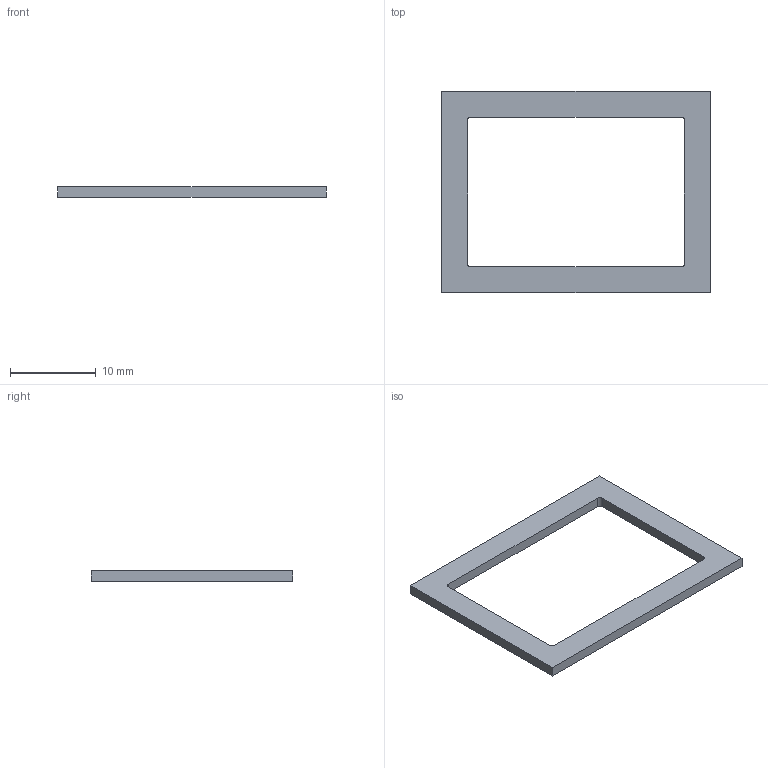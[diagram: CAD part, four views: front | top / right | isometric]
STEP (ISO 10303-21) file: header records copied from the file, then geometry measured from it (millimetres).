
FILE_DESCRIPTION(('Open CASCADE Model'),'2;1');
FILE_NAME('Open CASCADE Shape Model','2026-11-14T12:48:49',('Author'),( 'Open CASCADE'),'Open CASCADE STEP processor 7.9','Open CASCADE 7.9' ,'Unknown');
FILE_SCHEMA(('AUTOMOTIVE_DESIGN { 1 0 10303 214 1 1 1 1 }'));
Length unit declared in the file: millimetre
Products named in the file (1): Open CASCADE STEP translator 7.9 5
Bounding box: 31.34 x 23.5 x 1.2 mm (x, y, z)
Volume: 351.8 mm3; surface area: 820 mm2
Topology: 1 solids, 1 shells, 14 faces, 36 edges, 24 vertices
Faces by surface type: plane 10, cylinder 4
Entity records: 910 total; most frequent: CARTESIAN_POINT 147, DIRECTION 146, LINE 92, VECTOR 92, ORIENTED_EDGE 72, PCURVE 72, DEFINITIONAL_REPRESENTATION 72, EDGE_CURVE 36
